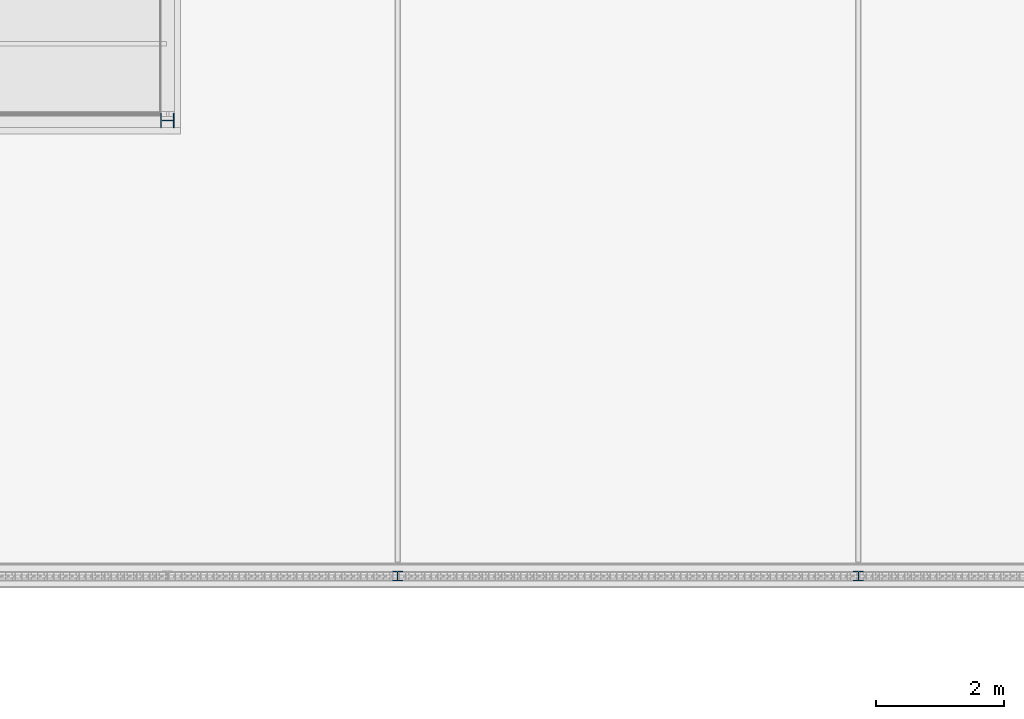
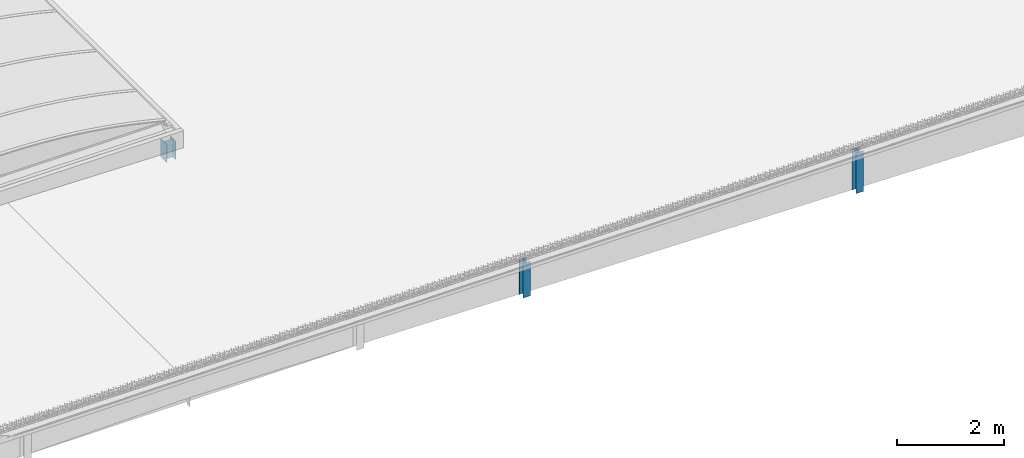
# One storey, part 24 of 81: 3 columns.
"""IFC2X3 building model written with IfcOpenShell, lengths in millimetres."""

from ifc_helpers import new_model, entity, si_unit, converted_unit, derived_unit, money_unit, direction, frame, origin_with_axes, place, context, subcontext, project, spatial, faceted_brep, material, type_object, element, save


model = new_model("IFC2X3")

# Units and contexts
model_context = context("Model", 3, precision=0.01, world=origin_with_axes(), true_north=direction((0.0, 1.0)))
body_context = subcontext(model_context, "Body", "Model", "MODEL_VIEW")
ifc_project = project(units=[si_unit("LENGTHUNIT", "METRE", prefix="MILLI"), si_unit("AREAUNIT", "SQUARE_METRE"), si_unit("VOLUMEUNIT", "CUBIC_METRE"), converted_unit("PLANEANGLEUNIT", "DEGREE", entity("IfcPlaneAngleMeasure", 0.0174532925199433), si_unit("PLANEANGLEUNIT", "RADIAN"), dimensions=[0, 0, 0, 0, 0, 0, 0]), money_unit("EUR"), converted_unit("TIMEUNIT", "Year", entity("IfcTimeMeasure", 31557600.0), si_unit("TIMEUNIT", "SECOND"), dimensions=[0, 0, 1, 0, 0, 0, 0]), si_unit("MASSUNIT", "GRAM", prefix="KILO"), si_unit("THERMODYNAMICTEMPERATUREUNIT", "DEGREE_CELSIUS"), si_unit("LUMINOUSINTENSITYUNIT", "LUMEN"), si_unit("ENERGYUNIT", "JOULE", prefix="MEGA"), derived_unit("THERMALCONDUCTANCEUNIT", [(si_unit("POWERUNIT", "WATT"), 1), (si_unit("LENGTHUNIT", "METRE"), -1), (si_unit("THERMODYNAMICTEMPERATUREUNIT", "KELVIN"), -1)]), derived_unit("SPECIFICHEATCAPACITYUNIT", [(si_unit("ENERGYUNIT", "JOULE"), 1), (si_unit("MASSUNIT", "GRAM", prefix="KILO"), -1), (si_unit("THERMODYNAMICTEMPERATUREUNIT", "KELVIN"), -1)]), derived_unit("MASSDENSITYUNIT", [(si_unit("MASSUNIT", "GRAM", prefix="KILO"), 1), (si_unit("VOLUMEUNIT", "CUBIC_METRE"), -1)])], contexts=[model_context])

# Site, building, storey
site_placement = place(None, origin_with_axes())
site = spatial("IfcSite", under=ifc_project, at=site_placement, Name="Site", CompositionType="ELEMENT")
building_placement = place(site_placement, origin_with_axes())
building = spatial("IfcBuilding", under=site, at=building_placement, Name="Naam gebouw", CompositionType="ELEMENT")
storey_placement = place(building_placement, frame((0.0, 0.0, 15320.0), z_axis=(0.0, 0.0, 1.0), x_axis=(1.0, 0.0, 0.0)))
storey = spatial("IfcBuildingStorey", under=building, at=storey_placement, Name="01 dak", CompositionType="ELEMENT", Elevation=15320.0)

# Columns
ifc_material = material(Name="Metaal - Staal C")
column_type_1 = type_object("IfcColumnType", Name="HEA220 220 x 210", PredefinedType="COLUMN")
column_1_placement = place(storey_placement, frame((108900.0, 69200.0, -70.00000000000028), z_axis=(0.0, 0.0, 1.0), x_axis=(-1.0, 0.0, 0.0)))
element("IfcColumn", 1, at=column_1_placement, inside=storey, type_object=column_type_1, material=ifc_material, Name="HEA220", ObjectType="COLUMN", context=body_context, shape_type="Brep", body=[
    faceted_brep([(-105.000000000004, -109.9999999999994, 419.9999999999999), (-105.000000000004, -109.9999999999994, 0.0), (-93.99999999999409, -109.9999999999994, 0.0), (-93.99999999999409, -109.9999999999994, 419.9999999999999), (-105.000000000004, 109.9999999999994, 419.9999999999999), (-105.000000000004, 109.9999999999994, 0.0), (-93.99999999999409, 109.9999999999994, 0.0), (-93.99999999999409, 3.500000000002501, 0.0), (93.99999999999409, 3.500000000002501, 0.0), (93.99999999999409, 109.9999999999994, 0.0), (105.000000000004, 109.9999999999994, 0.0), (105.000000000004, -109.9999999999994, 0.0), (93.99999999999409, -109.9999999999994, 0.0), (93.99999999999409, -3.500000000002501, 0.0), (-93.99999999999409, -3.500000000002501, 0.0), (-93.99999999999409, -3.500000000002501, 419.9999999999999), (93.99999999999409, -3.500000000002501, 419.9999999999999), (93.99999999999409, -109.9999999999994, 419.9999999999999), (105.000000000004, -109.9999999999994, 419.9999999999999), (105.000000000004, 109.9999999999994, 419.9999999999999), (93.99999999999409, 109.9999999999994, 419.9999999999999), (93.99999999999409, 3.500000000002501, 419.9999999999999), (-93.99999999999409, 3.500000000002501, 419.9999999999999), (-93.99999999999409, 109.9999999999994, 419.9999999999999)], [[[0, 1, 2, 3]], [[4, 5, 1, 0]], [[2, 1, 5, 6, 7, 8, 9, 10, 11, 12, 13, 14]], [[3, 2, 14, 15]], [[4, 0, 3, 15, 16, 17, 18, 19, 20, 21, 22, 23]], [[23, 6, 5, 4]], [[22, 7, 6, 23]], [[21, 8, 7, 22]], [[20, 9, 8, 21]], [[19, 10, 9, 20]], [[18, 11, 10, 19]], [[17, 12, 11, 18]], [[16, 13, 12, 17]], [[15, 14, 13, 16]]]),
])
column_type_2 = type_object("IfcColumnType", Name="HEA160 160 x 152", PredefinedType="COLUMN")
column_2_placement = place(storey_placement, frame((119700.0, 62080.0, -272.1363728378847), z_axis=(0.0, 0.0, 1.0), x_axis=(-1.0, 0.0, 0.0)))
element("IfcColumn", 2, at=column_2_placement, inside=storey, type_object=column_type_2, material=ifc_material, Name="HEA160", ObjectType="COLUMN", context=body_context, shape_type="Brep", body=[
    faceted_brep([(-79.9999999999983, 76.00000000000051, 927.0970131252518), (-79.9999999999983, 76.00000000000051, 0.0), (-79.9999999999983, 67.00000000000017, 0.0), (-79.9999999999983, 67.00000000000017, 927.0970131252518), (79.9999999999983, 76.00000000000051, 927.0970131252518), (79.9999999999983, 76.00000000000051, 0.0), (79.9999999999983, 67.00000000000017, 0.0), (3.000000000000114, 67.00000000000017, 0.0), (3.000000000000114, -67.00000000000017, 0.0), (79.9999999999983, -67.00000000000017, 0.0), (79.9999999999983, -76.00000000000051, 0.0), (-79.9999999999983, -76.00000000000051, 0.0), (-79.9999999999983, -67.00000000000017, 0.0), (-3.000000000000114, -67.00000000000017, 0.0), (-3.000000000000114, 67.00000000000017, 0.0), (-3.000000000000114, 67.00000000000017, 927.0970131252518), (-3.000000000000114, -67.00000000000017, 927.0970131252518), (-79.9999999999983, -67.00000000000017, 927.0970131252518), (-79.9999999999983, -76.00000000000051, 927.0970131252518), (79.9999999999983, -76.00000000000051, 927.0970131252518), (79.9999999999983, -67.00000000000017, 927.0970131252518), (3.000000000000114, -67.00000000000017, 927.0970131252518), (3.000000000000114, 67.00000000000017, 927.0970131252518), (79.9999999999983, 67.00000000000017, 927.0970131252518)], [[[0, 1, 2, 3]], [[4, 5, 1, 0]], [[2, 1, 5, 6, 7, 8, 9, 10, 11, 12, 13, 14]], [[3, 2, 14, 15]], [[4, 0, 3, 15, 16, 17, 18, 19, 20, 21, 22, 23]], [[23, 6, 5, 4]], [[22, 7, 6, 23]], [[21, 8, 7, 22]], [[20, 9, 8, 21]], [[19, 10, 9, 20]], [[18, 11, 10, 19]], [[17, 12, 11, 18]], [[16, 13, 12, 17]], [[15, 14, 13, 16]]]),
])
column_3_placement = place(storey_placement, frame((112500.0, 62080.0, -138.9176451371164), z_axis=(0.0, 0.0, 1.0), x_axis=(-1.0, 0.0, 0.0)))
element("IfcColumn", 3, at=column_3_placement, inside=storey, type_object=column_type_2, material=ifc_material, Name="HEA160", ObjectType="COLUMN", context=body_context, shape_type="Brep", body=[
    faceted_brep([(-79.9999999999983, 76.00000000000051, 793.8782854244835), (-79.9999999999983, 76.00000000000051, 0.0), (-79.9999999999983, 67.00000000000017, 0.0), (-79.9999999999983, 67.00000000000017, 793.8782854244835), (79.9999999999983, 76.00000000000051, 793.8782854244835), (79.9999999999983, 76.00000000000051, 0.0), (79.9999999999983, 67.00000000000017, 0.0), (3.000000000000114, 67.00000000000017, 0.0), (3.000000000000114, -67.00000000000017, 0.0), (79.9999999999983, -67.00000000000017, 0.0), (79.9999999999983, -76.00000000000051, 0.0), (-79.9999999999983, -76.00000000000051, 0.0), (-79.9999999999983, -67.00000000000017, 0.0), (-3.000000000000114, -67.00000000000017, 0.0), (-3.000000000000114, 67.00000000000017, 0.0), (-3.000000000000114, 67.00000000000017, 793.8782854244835), (-3.000000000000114, -67.00000000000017, 793.8782854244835), (-79.9999999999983, -67.00000000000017, 793.8782854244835), (-79.9999999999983, -76.00000000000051, 793.8782854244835), (79.9999999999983, -76.00000000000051, 793.8782854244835), (79.9999999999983, -67.00000000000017, 793.8782854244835), (3.000000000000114, -67.00000000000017, 793.8782854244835), (3.000000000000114, 67.00000000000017, 793.8782854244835), (79.9999999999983, 67.00000000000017, 793.8782854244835)], [[[0, 1, 2, 3]], [[4, 5, 1, 0]], [[2, 1, 5, 6, 7, 8, 9, 10, 11, 12, 13, 14]], [[3, 2, 14, 15]], [[4, 0, 3, 15, 16, 17, 18, 19, 20, 21, 22, 23]], [[23, 6, 5, 4]], [[22, 7, 6, 23]], [[21, 8, 7, 22]], [[20, 9, 8, 21]], [[19, 10, 9, 20]], [[18, 11, 10, 19]], [[17, 12, 11, 18]], [[16, 13, 12, 17]], [[15, 14, 13, 16]]]),
])

save(model, "model.ifc")
